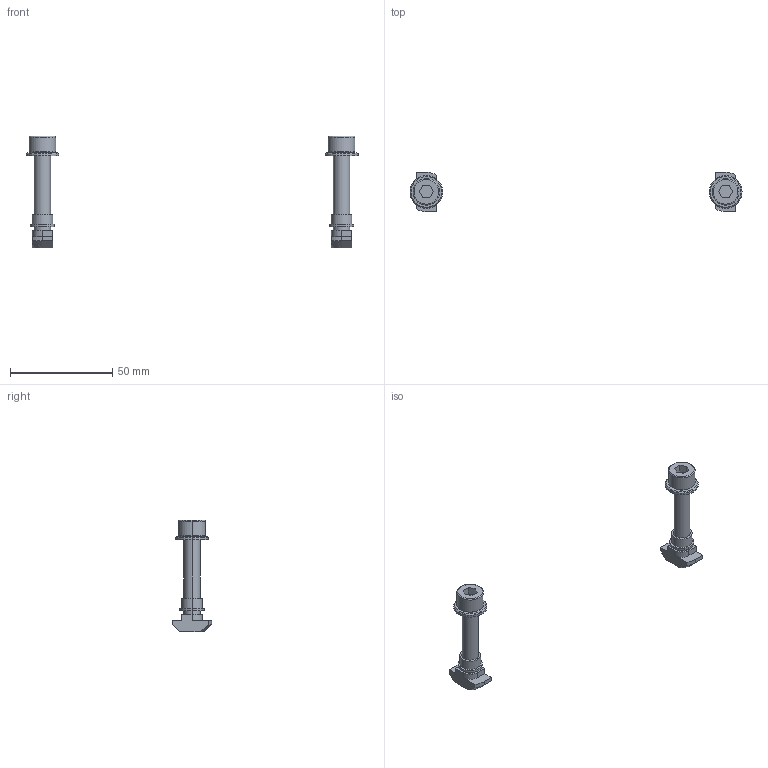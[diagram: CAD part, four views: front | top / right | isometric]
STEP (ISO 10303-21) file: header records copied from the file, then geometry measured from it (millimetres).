
FILE_DESCRIPTION (( 'STEP AP203' ), '1' );
FILE_NAME ('75000046 o. ZP.STEP', '2017-02-09T05:21:00', ( '' ), ( '' ), 'SwSTEP 2.0', 'SolidWorks 2015', '' );
FILE_SCHEMA (( 'CONFIG_CONTROL_DESIGN' ));
Length unit declared in the file: millimetre
Products named in the file (1): 75000046 o. ZP
Bounding box: 162 x 19.2 x 54.5 mm (x, y, z)
Volume: 8743.9 mm3; surface area: 5995.6 mm2
Topology: 2 solids, 2 shells, 118 faces, 268 edges, 172 vertices
Faces by surface type: plane 54, cylinder 44, cone 16, torus 4
Entity records: 3643 total; most frequent: CARTESIAN_POINT 827, DIRECTION 598, ORIENTED_EDGE 536, EDGE_CURVE 268, AXIS2_PLACEMENT_3D 223, VERTEX_POINT 172, VECTOR 152, LINE 152
